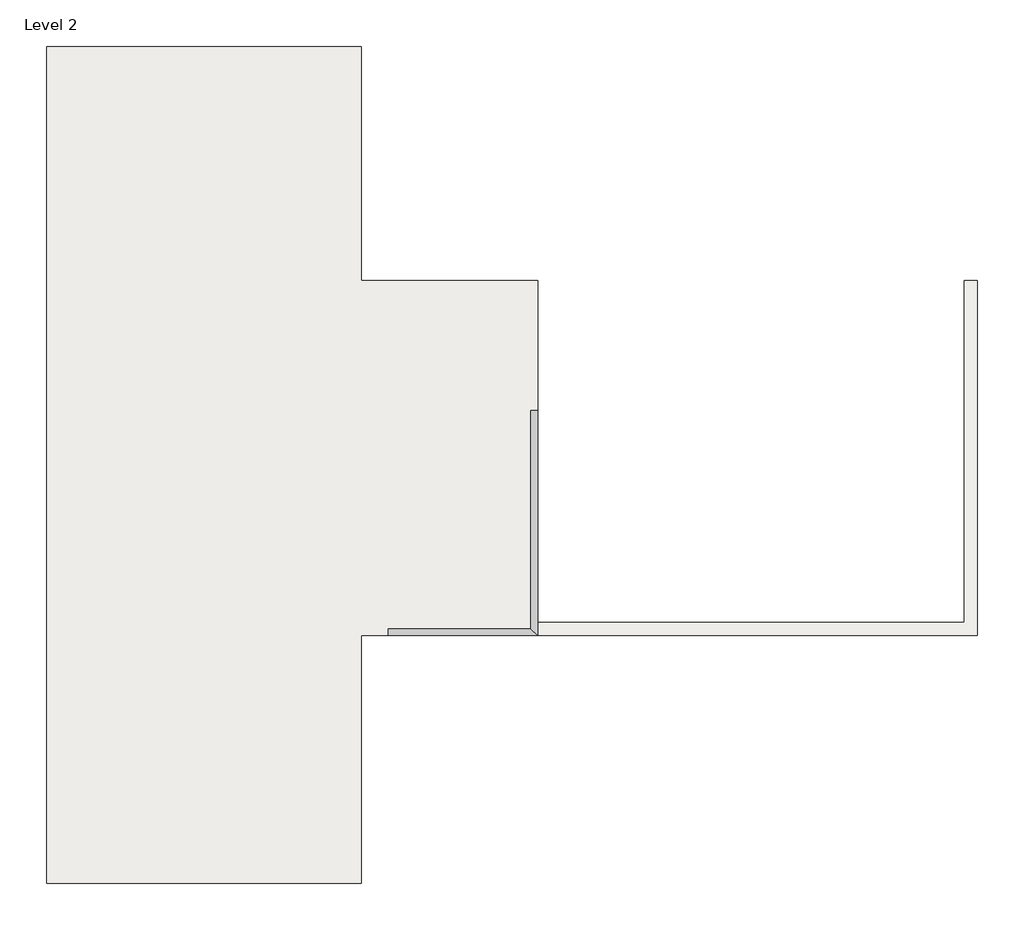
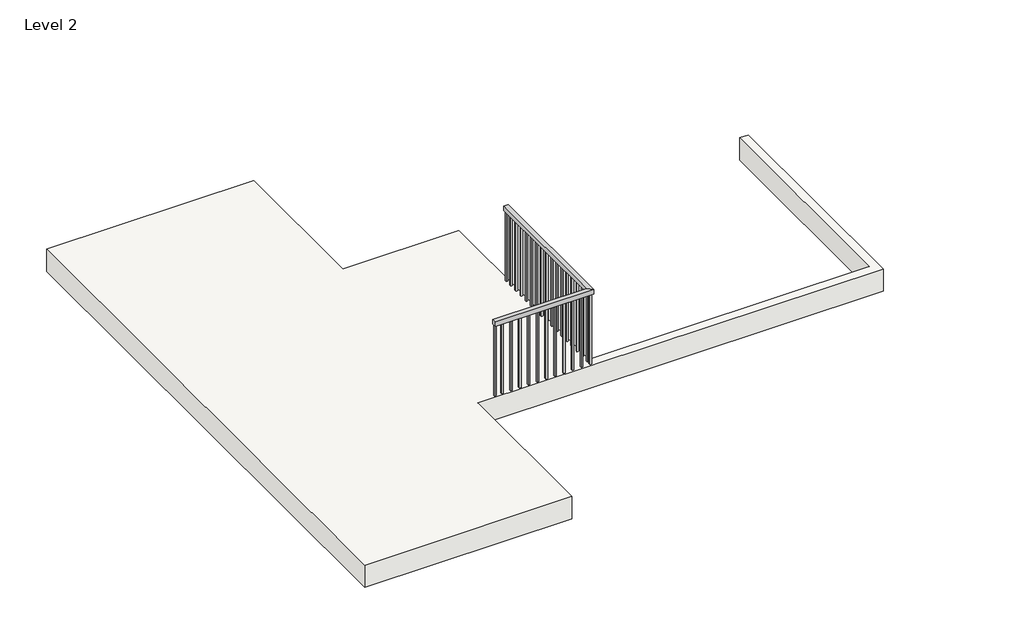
# One storey: 1 railing, 1 slab.
"""IFC4 building model written with IfcOpenShell, lengths in millimetres."""

from ifc_helpers import new_model, si_unit, frame, origin, place, context, project, spatial, polyline, outline, extrude, transform, mapped, element, save
from components import handrail_rectangular_25aba38f

model = new_model("IFC4")

# Units and contexts
model_context = context("Model", 3, world=origin())
ifc_project = project(units=[si_unit("LENGTHUNIT", "METRE", prefix="MILLI")], contexts=[model_context])

# Site, building, storey
site = spatial("IfcSite", under=ifc_project)
building = spatial("IfcBuilding", under=site)
storey = spatial("IfcBuildingStorey", under=building, Name="Level 2", Elevation=3048.0)

# Railing
placement = place(None, origin())
handrail_rectangular_shape = handrail_rectangular_25aba38f(model_context)
element("IfcRailing", 1, ObjectType="Handrail - Rectangular", at=placement, inside=storey, context=model_context, shape_type="MappedRepresentation", body=[
    mapped(handrail_rectangular_shape, transform((0.0, 0.0, 0.0), x_axis=(1.0, 0.0, 0.0), y_axis=(0.0, 1.0, 0.0), z_axis=(0.0, 0.0, 1.0))),
])

# Slab
element("IfcSlab", 2, ObjectType="Wood Joist 10\" - Ceramic Tile", at=placement, inside=storey, context=model_context, shape_type="SweptSolid", body=[
    extrude(outline(polyline([(-7381.4972322, 5761.7543518), (-4993.8972322, 5761.7543518), (-4993.8972322, 3983.7543518), (-3656.5276449, 3983.7543518), (-3656.5276449, 1392.7710969), (-421.8972322, 1392.7710969), (-421.8972322, 3983.7543518), (-320.2972322, 3983.7543518), (-320.2972322, 1291.3543518), (-4993.8972322, 1291.3543518), (-4993.8972322, -588.2456482), (-7381.4972322, -588.2456482), (-7381.4972322, 5761.7543518)])), frame((0.0, 0.0, 2774.95), z_axis=(0.0, 0.0, 1.0), x_axis=(1.0, 0.0, 0.0)), (0.0, 0.0, 1.0), 273.05),
])

save(model, "model.ifc")
